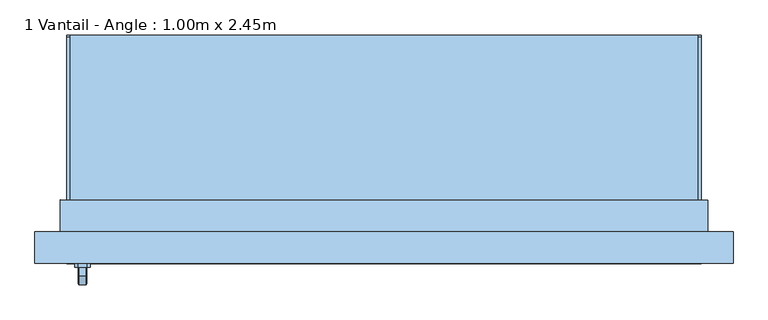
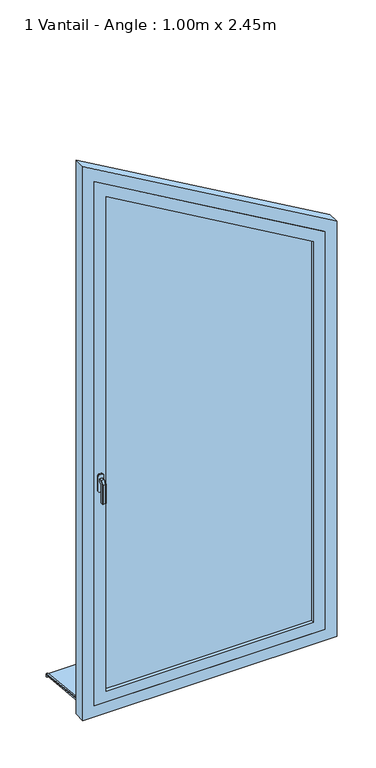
"""IFC4 building model written with IfcOpenShell, lengths in millimetres: window geometry, 1 Vantail - Angle : 1.00m x 2.45m."""

from ifc_helpers import new_model, si_unit, point, frame, frame_2d, origin, place, context, project, spatial, polyline, circle_curve, trimmed, segment, composite_curve, outline, extrude, faceted_brep, source, transform, mapped, element, save


def window_1_vantail_angle_1_00m_x_2_45m_7bd88ca6(model_context):
    return source(origin(), model_context, "Body", "SolidModel", [
        faceted_brep([(-469.3539903, -181.0, 1122.0339292), (-467.9660708, -181.0, 1120.6460097), (-467.9660708, -181.0, 1109.3323012), (-469.3323012, -181.0, 1107.9660708), (-480.6676988, -181.0, 1107.9660708), (-482.0339292, -181.0, 1109.3323012), (-482.0339292, -181.0, 1120.6460097), (-480.6460097, -181.0, 1122.0339292), (-469.3539903, -193.9135489, 1122.0339292), (-467.9660708, -193.3386538, 1120.6460097), (-467.9660708, -206.6460097, 1107.3386538), (-467.9660708, -206.6460097, 1020.0), (-467.9660708, -195.3323012, 1020.0), (-467.9660708, -195.3323012, 1102.6523623), (-467.9660708, -188.6523623, 1109.3323012), (-469.3323012, -188.0864511, 1107.9660708), (-480.6676988, -188.0864511, 1107.9660708), (-482.0339292, -188.6523623, 1109.3323012), (-482.0339292, -195.3323012, 1102.6523623), (-482.0339292, -195.3323012, 1020.0), (-482.0339292, -206.6460097, 1020.0), (-482.0339292, -206.6460097, 1107.3386538), (-482.0339292, -193.3386538, 1120.6460097), (-480.6460097, -193.9135489, 1122.0339292), (-469.3539903, -208.0339292, 1107.9135489), (-469.3323012, -193.9660708, 1102.0864511), (-480.6676988, -193.9660708, 1102.0864511), (-480.6460097, -208.0339292, 1107.9135489), (-469.3539903, -208.0339292, 1020.0), (-480.6460097, -208.0339292, 1020.0), (-480.6676988, -193.9660708, 1020.0), (-469.3323012, -193.9660708, 1020.0)], [[[0, 1, 2, 3, 4, 5, 6, 7]], [[1, 0, 8, 9]], [[2, 1, 9, 10, 11, 12, 13, 14]], [[3, 2, 14, 15]], [[4, 3, 15, 16]], [[5, 4, 16, 17]], [[6, 5, 17, 18, 19, 20, 21, 22]], [[7, 6, 22, 23]], [[0, 7, 23, 8]], [[9, 8, 24, 10]], [[15, 14, 13, 25]], [[16, 15, 25, 26]], [[17, 16, 26, 18]], [[23, 22, 21, 27]], [[8, 23, 27, 24]], [[28, 29, 20, 19, 30, 31, 12, 11]], [[10, 24, 28, 11]], [[25, 13, 12, 31]], [[26, 25, 31, 30]], [[18, 26, 30, 19]], [[27, 21, 20, 29]], [[24, 27, 29, 28]]]),
        extrude(outline(polyline([(1140.0, -468.0), (1140.0, -482.0), (1135.0, -487.0), (1065.0, -487.0), (1060.0, -482.0), (1060.0, -468.0), (1065.0, -463.0), (1135.0, -463.0), (1140.0, -468.0)])), frame((0.0, -181.0, 0.0), z_axis=(0.0, 1.0, 0.0), x_axis=(0.0, 0.0, 1.0)), (0.0, 0.0, 1.0), 6.0),
        extrude(outline(polyline([(185.0288776, 10.8229907), (185.0288776, -0.2552118), (180.0288776, 0.2703094), (180.0288776, 6.0933001), (-95.0, 35.0), (-95.0, 50.0), (-90.0, 50.0), (-90.0, 39.7296906), (185.0288776, 10.8229907)])), frame((-500.0, 0.0, 0.0), z_axis=(1.0, 0.0, 0.0), x_axis=(0.0, 1.0, 0.0)), (0.0, 0.0, 1.0), 1000.0),
        extrude(outline(composite_curve([segment(polyline([(185.0288776, 10.8229907), (-90.0, 39.7296906), (-90.0, 44.757232), (181.4469915, 16.2270035)]), True, "CONTINUOUS"), segment(trimmed(circle_curve(frame_2d((181.0288776, 12.2489159)), 4.0), [point((181.4469915, 16.2270035))], [point((185.0288776, 12.2489159))], False, "CARTESIAN"), True, "CONTINUOUS"), segment(polyline([(185.0288776, 12.2489159), (185.0288776, 10.8229907)]), True, "CONTINUOUS")], self_intersect=False)), frame((-500.0, 0.0, 0.0), z_axis=(1.0, 0.0, 0.0), x_axis=(0.0, 1.0, 0.0)), (0.0, 0.0, 1.0), 5.0),
        extrude(outline(composite_curve([segment(polyline([(185.0288776, 10.8229907), (-90.0, 39.7296906), (-90.0, 44.757232), (181.4469915, 16.2270035)]), True, "CONTINUOUS"), segment(trimmed(circle_curve(frame_2d((181.0288776, 12.2489159)), 4.0), [point((181.4469915, 16.2270035))], [point((185.0288776, 12.2489159))], False, "CARTESIAN"), True, "CONTINUOUS"), segment(polyline([(185.0288776, 12.2489159), (185.0288776, 10.8229907)]), True, "CONTINUOUS")], self_intersect=False)), frame((495.0, 0.0, 0.0), z_axis=(1.0, 0.0, 0.0), x_axis=(0.0, 1.0, 0.0)), (0.0, 0.0, 1.0), 5.0),
        extrude(outline(polyline([(35.0, -510.0), (35.0, -500.0), (2485.0, -500.0), (1907.6497308, 500.0), (35.0, 500.0), (35.0, 510.0), (1913.4232335, 510.0), (2502.3205081, -510.0), (35.0, -510.0)])), frame((0.0, -125.0, 0.0), z_axis=(0.0, 1.0, 0.0), x_axis=(0.0, 0.0, 1.0)), (0.0, 0.0, 1.0), 50.0),
        faceted_brep([(-550.0, -175.0, 35.0), (-550.0, -125.0, 35.0), (-500.0, -125.0, 35.0), (-500.0, -95.0, 35.0), (500.0, -95.0, 35.0), (500.0, -125.0, 35.0), (550.0, -125.0, 35.0), (550.0, -175.0, 35.0), (-550.0, -175.0, 2571.6025404), (-550.0, -125.0, 2571.6025404), (550.0, -125.0, 1936.5172443), (500.0, -125.0, 74.3761425), (-500.0, -125.0, 74.3761425), (-485.0, -125.0, 2459.0192379), (-485.0, -125.0, 100.0), (485.0, -125.0, 100.0), (485.0, -125.0, 1898.9894768), (-500.0, -75.0, 60.9786829), (-500.0, -75.0, 45.0), (-500.0, -85.0, 45.0), (-500.0, -85.0, 50.0), (-500.0, -95.0, 50.0), (500.0, -95.0, 50.0), (500.0, -85.0, 50.0), (500.0, -85.0, 45.0), (500.0, -75.0, 45.0), (500.0, -75.0, 60.9786829), (550.0, -175.0, 1936.5172443), (500.0, -175.0, 1907.6497308), (500.0, -175.0, 85.0), (-500.0, -175.0, 85.0), (-500.0, -175.0, 2485.0), (-485.0, -135.0, 2459.0192379), (-485.0, -135.0, 100.0), (485.0, -135.0, 100.0), (485.0, -135.0, 1898.9894768), (500.0, -135.0, 1907.6497308), (-500.0, -135.0, 2485.0), (-500.0, -135.0, 85.0), (500.0, -135.0, 85.0)], [[[0, 1, 2, 3, 4, 5, 6, 7]], [[1, 0, 8, 9]], [[1, 9, 10, 6, 5, 11, 12, 2], [13, 14, 15, 16]], [[12, 17, 18, 19, 20, 21, 3, 2]], [[3, 21, 22, 4]], [[4, 22, 23, 24, 25, 26, 11, 5]], [[6, 10, 27, 7]], [[0, 7, 27, 8], [28, 29, 30, 31]], [[13, 32, 33, 14]], [[33, 34, 15, 14]], [[35, 16, 15, 34]], [[17, 12, 11, 26]], [[36, 37, 38, 39], [32, 35, 34, 33]], [[38, 37, 31, 30]], [[30, 29, 39, 38]], [[28, 36, 39, 29]], [[18, 17, 26, 25]], [[19, 18, 25, 24]], [[20, 19, 24, 23]], [[21, 20, 23, 22]], [[13, 16, 35, 32]], [[10, 9, 8, 27]], [[37, 36, 28, 31]]]),
        extrude(outline(polyline([(1907.6497308, 500.0), (2485.0, -500.0), (85.0, -500.0), (85.0, 500.0), (1907.6497308, 500.0)]), holes=[polyline([(2398.3974596, -450.0), (1878.7822174, 450.0), (135.0, 450.0), (135.0, -450.0), (2398.3974596, -450.0)])]), frame((0.0, -175.0, 0.0), z_axis=(0.0, 1.0, 0.0), x_axis=(0.0, 0.0, 1.0)), (0.0, 0.0, 1.0), 40.0),
        extrude(outline(polyline([(135.0, -450.0), (135.0, 450.0), (1878.7822174, 450.0), (2398.3974596, -450.0), (135.0, -450.0)])), frame((0.0, -161.0, 0.0), z_axis=(0.0, 1.0, 0.0), x_axis=(0.0, 0.0, 1.0)), (0.0, 0.0, 1.0), 12.0),
    ])


if __name__ == "__main__":
    model = new_model("IFC4")
    model_context = context("Model", 3, world=origin())
    ifc_project = project(units=[si_unit("LENGTHUNIT", "METRE", prefix="MILLI")], contexts=[model_context])
    site = spatial("IfcSite", under=ifc_project)
    building = spatial("IfcBuilding", under=site)
    placement = place(None, origin())
    window_1_vantail_angle_1_00m_x_2_45m_shape = window_1_vantail_angle_1_00m_x_2_45m_7bd88ca6(model_context)
    element("IfcWindow", 1, ObjectType="1 Vantail - Angle : 1.00m x 2.45m", at=placement, inside=building, context=model_context, shape_type="MappedRepresentation", body=[
        mapped(window_1_vantail_angle_1_00m_x_2_45m_shape, transform((0.0, 0.0, 0.0), x_axis=(1.0, 0.0, 0.0), y_axis=(0.0, 1.0, 0.0), z_axis=(0.0, 0.0, 1.0))),
    ])
    save(model, "model.ifc")
